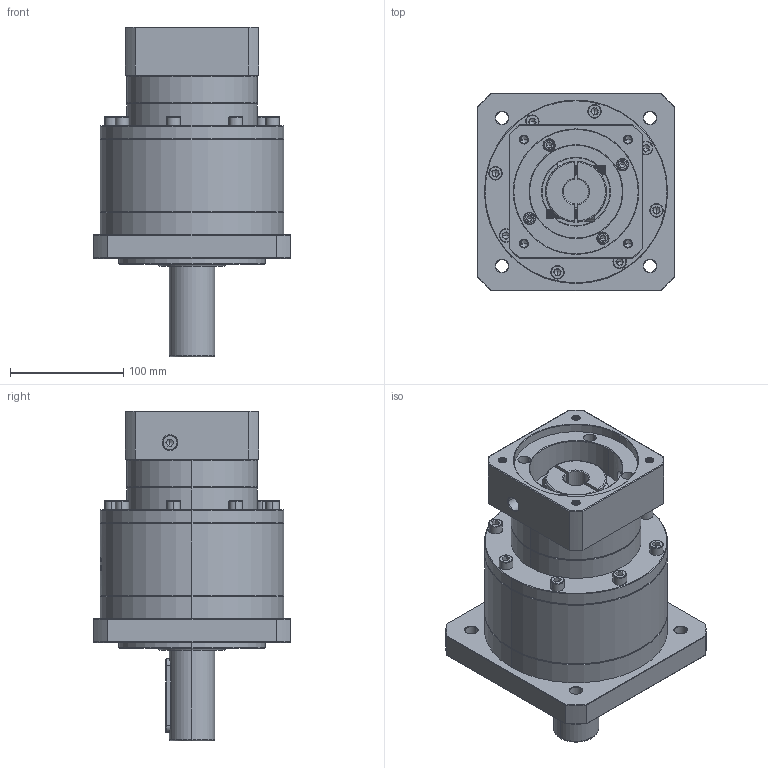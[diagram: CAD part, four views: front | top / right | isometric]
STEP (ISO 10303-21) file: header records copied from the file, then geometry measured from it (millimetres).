
FILE_DESCRIPTION (( 'STEP AP214' ), '1' );
FILE_NAME ('ZF160-D40-L2-22-110-130-M8.step', '2023-03-22T03:56:12', ( '' ), ( '' ), 'SwSTEP 2.0', 'SolidWorks 2016', '' );
FILE_SCHEMA (( 'AUTOMOTIVE_DESIGN' ));
Length unit declared in the file: millimetre
Products named in the file (1): ZF160-D40-L2-22-110-130-M8
Bounding box: 175 x 175 x 291.7 mm (x, y, z)
Volume: 3573482.3 mm3; surface area: 265896.9 mm2
Topology: 6 solids, 6 shells, 1873 faces, 4758 edges, 3011 vertices
Faces by surface type: plane 746, cylinder 484, cone 373, bspline 232, torus 38
Entity records: 99949 total; most frequent: CARTESIAN_POINT 36488, ORIENTED_EDGE 9408, DIRECTION 8248, EDGE_CURVE 4704, VERTEX_POINT 3011, AXIS2_PLACEMENT_3D 2868, LINE 2512, VECTOR 2512
